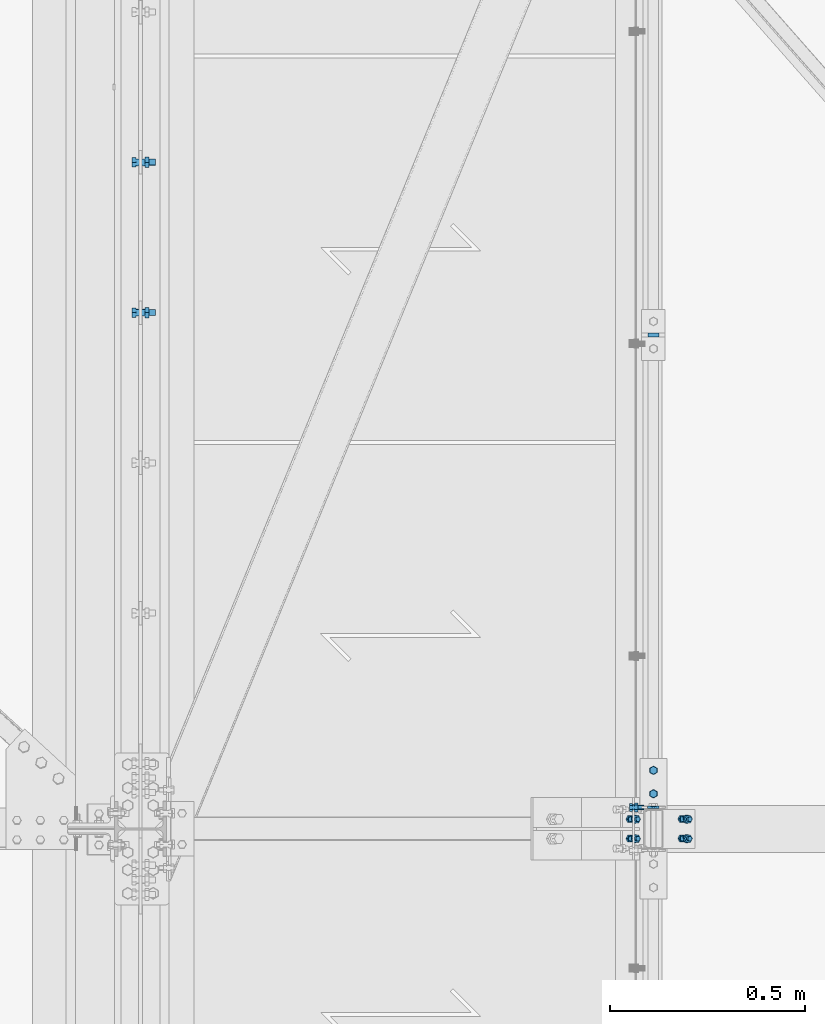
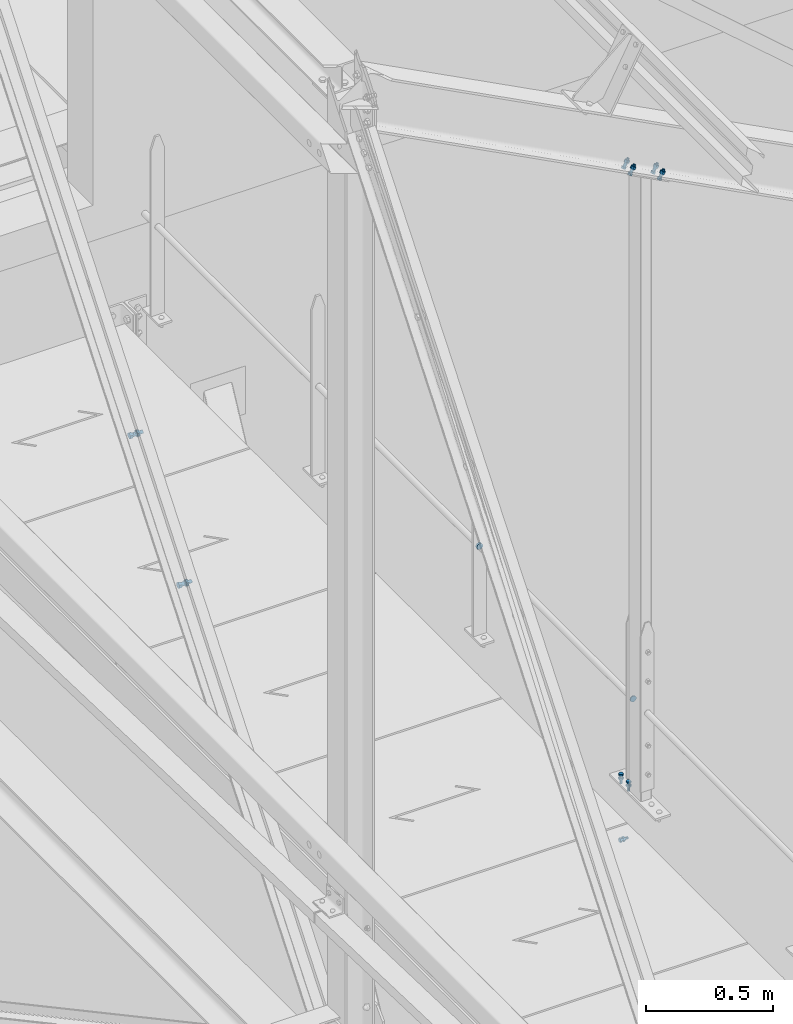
# One storey, part 253 of 362: 8 mechanical fasteners.
"""IFC2X3 building model written with IfcOpenShell, lengths in millimetres."""

from ifc_helpers import new_model, si_unit, frame, origin_with_axes, origin_2d_with_axis, place, context, subcontext, project, spatial, polyline, circle, outline, extrude, source, transform, mapped, material, type_object, element, save


model = new_model("IFC2X3")

# Units and contexts
model_context = context("Model", 3, precision=1e-05, world=origin_with_axes())
body_context = subcontext(model_context, "Body", "Model", "MODEL_VIEW")
ifc_project = project(units=[si_unit("LENGTHUNIT", "METRE", prefix="MILLI"), si_unit("AREAUNIT", "SQUARE_METRE"), si_unit("VOLUMEUNIT", "CUBIC_METRE"), si_unit("MASSUNIT", "GRAM", prefix="KILO"), si_unit("TIMEUNIT", "SECOND"), si_unit("PLANEANGLEUNIT", "RADIAN"), si_unit("SOLIDANGLEUNIT", "STERADIAN"), si_unit("THERMODYNAMICTEMPERATUREUNIT", "DEGREE_CELSIUS"), si_unit("LUMINOUSINTENSITYUNIT", "LUMEN")], contexts=[model_context])

# Site, building, storey
site_placement = place(None, origin_with_axes())
site = spatial("IfcSite", under=ifc_project, at=site_placement, Name="Undefined", CompositionType="ELEMENT")
building_placement = place(site_placement, origin_with_axes())
building = spatial("IfcBuilding", under=site, at=building_placement, Name="Undefined", CompositionType="ELEMENT")
storey_placement = place(building_placement, origin_with_axes())
storey = spatial("IfcBuildingStorey", under=building, at=storey_placement, Name="Undefined", CompositionType="ELEMENT", Elevation=0.0)

# Mechanical fasteners
ifc_material_1 = material(Name="8.8-SB-ZINGUE")
mechanical_fastener_type = type_object("IfcMechanicalFastenerType", Name="Bolt assembly")
shared_shape_1 = source(origin_with_axes(), body_context, "Body", "SweptSolid", [
    extrude(circle(Radius=9.0, at=origin_2d_with_axis()), frame((0.0, -10.9000000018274, 0.0), z_axis=(0.0, 1.0, 0.0), x_axis=(1.0, 0.0, 0.0)), (0.0, 0.0, 1.0), 6.0),
    extrude(circle(Radius=9.0, at=origin_2d_with_axis()), frame((0.0, 4.9000000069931, 0.0), z_axis=(0.0, 1.0, 0.0), x_axis=(1.0, 0.0, 0.0)), (0.0, 0.0, 1.0), 6.1),
    extrude(circle(Radius=9.0, at=origin_2d_with_axis()), frame((0.0, -3.99999923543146, 0.0), z_axis=(0.0, 1.0, 0.0), x_axis=(1.0, 0.0, 0.0)), (0.0, 0.0, 1.0), 8.0),
    extrude(outline(polyline([(13.85640646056, 0.0), (6.92820323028, 12.0000000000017), (-6.92820323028, 12.0000000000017), (-13.85640646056, 0.0), (-6.92820323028, -12.0000000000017), (6.92820323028, -12.0000000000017), (13.85640646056, 0.0)])), frame((0.0, -21.5600000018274, 0.0), z_axis=(0.0, 1.0, 0.0), x_axis=(1.0, 0.0, 0.0)), (0.0, 0.0, 1.0), 10.56),
    extrude(circle(Radius=8.0, at=origin_2d_with_axis()), frame((0.0, -11.0000000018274, 0.0), z_axis=(0.0, 1.0, 0.0), x_axis=(1.0, 0.0, 0.0)), (0.0, 0.0, 1.0), 50.0),
    extrude(outline(polyline([(15.3344231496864, 0.0), (7.6672115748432, 13.2800000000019), (-7.6672115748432, 13.2800000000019), (-15.3344231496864, 0.0), (-7.6672115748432, -13.2800000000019), (7.6672115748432, -13.2800000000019), (15.3344231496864, 0.0)])), frame((0.0, 11.0000000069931, 0.0), z_axis=(0.0, 1.0, 0.0), x_axis=(1.0, 0.0, 0.0)), (0.0, 0.0, 1.0), 10.56),
])
for number, where, z_axis, x_axis, name in (
    (1, (12680.0, 12722.6230450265, 8916.1569760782), (0.0, 1.0, 0.0), (0.0, 0.0, 1.0), "Bolt assembly"),
    (2, (12680.0, 13107.5410154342, 9401.05232502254), (0.0, 1.0, 0.0), (0.0, 0.0, 1.0), "Bolt assembly"),
):
    element("IfcMechanicalFastener", number, at=place(storey_placement, frame(where, z_axis=z_axis, x_axis=x_axis)), inside=storey, type_object=mechanical_fastener_type, material=ifc_material_1, Name=name, NominalDiameter=16.0, NominalLength=50.0, context=body_context, shape_type="MappedRepresentation", body=[
        mapped(shared_shape_1, transform((0.0, 0.0, 0.0))),
    ])
shared_shape_2 = source(origin_with_axes(), body_context, "Body", "SweptSolid", [
    extrude(circle(Radius=7.0, at=origin_2d_with_axis()), frame((0.0, -10.0000010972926, 0.0), z_axis=(0.0, 1.0, 0.0), x_axis=(1.0, 0.0, 0.0)), (0.0, 0.0, 1.0), 10.1),
    extrude(outline(polyline([(10.39230484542, 0.0), (5.19615242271, 9.00000000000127), (-5.19615242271, 9.00000000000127), (-10.39230484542, 0.0), (-5.19615242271, -9.00000000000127), (5.19615242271, -9.00000000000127), (10.39230484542, 0.0)])), frame((0.0, -17.92, 0.0), z_axis=(0.0, 1.0, 0.0), x_axis=(1.0, 0.0, 0.0)), (0.0, 0.0, 1.0), 7.92),
    extrude(circle(Radius=6.0, at=origin_2d_with_axis()), frame((0.0, -10.0000010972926, 0.0), z_axis=(0.0, 1.0, 0.0), x_axis=(1.0, 0.0, 0.0)), (0.0, 0.0, 1.0), 40.0),
    extrude(outline(polyline([(11.5008173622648, 0.0), (5.7504086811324, 9.96000000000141), (-5.7504086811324, 9.96000000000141), (-11.5008173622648, 0.0), (-5.7504086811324, -9.96000000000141), (5.7504086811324, -9.96000000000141), (11.5008173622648, 0.0)])), frame((0.0, 0.0, 0.0), z_axis=(0.0, 1.0, 0.0), x_axis=(1.0, 0.0, 0.0)), (0.0, 0.0, 1.0), 7.92),
])
mechanical_fastener_1_placement = place(storey_placement, frame((13993.9998855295, 11550.0001062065, 8239.99999240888), z_axis=(1.0, 0.0, 0.0), x_axis=(0.0, -1.0, 0.0)))
element("IfcMechanicalFastener", 3, at=mechanical_fastener_1_placement, inside=storey, type_object=mechanical_fastener_type, material=ifc_material_1, Name="Bolt assembly", NominalDiameter=12.0, NominalLength=40.0, context=body_context, shape_type="MappedRepresentation", body=[
    mapped(shared_shape_2, transform((0.0, 0.0, 0.0))),
    mapped(shared_shape_2, transform((60.0, 0.0, 0.0))),
])
ifc_material_2 = material(Name="6.8")
shared_shape_3 = source(origin_with_axes(), body_context, "Body", "SweptSolid", [
    extrude(circle(Radius=14.0, at=origin_2d_with_axis()), frame((0.0, -5.00000000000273, 0.0), z_axis=(0.0, 1.0, 0.0), x_axis=(1.0, 0.0, 0.0)), (0.0, 0.0, 1.0), 10.1),
])
mechanical_fastener_2_placement = place(storey_placement, frame((13993.999891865, 12665.0034477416, 8673.7999984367), z_axis=(0.0, 0.0, 1.0), x_axis=(-1.0, 0.0, 0.0)))
element("IfcMechanicalFastener", 4, at=mechanical_fastener_2_placement, inside=storey, type_object=mechanical_fastener_type, material=ifc_material_2, Name="Bolt assembly", NominalDiameter=27.0, NominalLength=10.0, context=body_context, shape_type="MappedRepresentation", body=[
    mapped(shared_shape_3, transform((0.0, 0.0, 0.0))),
])
shared_shape_4 = source(origin_with_axes(), body_context, "Body", "SweptSolid", [
    extrude(circle(Radius=14.0, at=origin_2d_with_axis()), frame((0.0, -2.5, 0.0), z_axis=(0.0, 1.0, 0.0), x_axis=(1.0, 0.0, 0.0)), (0.0, 0.0, 1.0), 5.1),
])
mechanical_fastener_3_placement = place(storey_placement, frame((13993.9998910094, 11455.0000094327, 8673.79999929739), z_axis=(0.0, 0.0, 1.0), x_axis=(-1.0, 0.0, 0.0)))
element("IfcMechanicalFastener", 5, at=mechanical_fastener_3_placement, inside=storey, type_object=mechanical_fastener_type, material=ifc_material_2, Name="Bolt assembly", NominalDiameter=27.0, NominalLength=10.0, context=body_context, shape_type="MappedRepresentation", body=[
    mapped(shared_shape_4, transform((0.0, 0.0, 0.0))),
])
shared_shape_5 = source(origin_with_axes(), body_context, "Body", "SweptSolid", [
    extrude(circle(Radius=7.0, at=origin_2d_with_axis()), frame((0.0, -0.100011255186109, 0.0), z_axis=(0.0, 1.0, 0.0), x_axis=(1.0, 0.0, 0.0)), (0.0, 0.0, 1.0), 9.9),
    extrude(circle(Radius=7.0, at=origin_2d_with_axis()), frame((0.0, -9.9, 0.0), z_axis=(0.0, 1.0, 0.0), x_axis=(1.0, 0.0, 0.0)), (0.0, 0.0, 1.0), 10.0),
    extrude(outline(polyline([(10.39230484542, 0.0), (5.19615242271, 9.00000000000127), (-5.19615242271, 9.00000000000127), (-10.39230484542, 0.0), (-5.19615242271, -9.00000000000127), (5.19615242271, -9.00000000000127), (10.39230484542, 0.0)])), frame((0.0, -17.92, 0.0), z_axis=(0.0, 1.0, 0.0), x_axis=(1.0, 0.0, 0.0)), (0.0, 0.0, 1.0), 7.92),
    extrude(circle(Radius=6.0, at=origin_2d_with_axis()), frame((0.0, -10.0000010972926, 0.0), z_axis=(0.0, 1.0, 0.0), x_axis=(1.0, 0.0, 0.0)), (0.0, 0.0, 1.0), 40.0),
    extrude(circle(Radius=10.8, at=origin_2d_with_axis()), frame((0.0, 9.80000019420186, 0.0), z_axis=(0.0, 1.0, 0.0), x_axis=(1.0, 0.0, 0.0)), (0.0, 0.0, 1.0), 3.96),
    extrude(outline(polyline([(11.5008173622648, 0.0), (5.7504086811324, 9.96000000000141), (-5.7504086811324, 9.96000000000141), (-11.5008173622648, 0.0), (-5.7504086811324, -9.96000000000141), (5.7504086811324, -9.96000000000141), (11.5008173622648, 0.0)])), frame((0.0, 13.7600001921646, 0.0), z_axis=(0.0, 1.0, 0.0), x_axis=(1.0, 0.0, 0.0)), (0.0, 0.0, 1.0), 7.92),
])
for number, where, z_axis, x_axis, name in (
    (6, (14073.7472683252, 11400.0000000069, 11206.6642092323), (0.0, 1.0, 0.0), (-0.886082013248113, 9.38091927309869e-07, 0.463528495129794), "Bolt assembly"),
    (7, (13940.8349636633, 11400.0000000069, 11276.1934783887), (0.0, -1.0, 0.0), (0.886081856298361, 3.500000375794e-08, -0.463528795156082), "Bolt assembly"),
):
    element("IfcMechanicalFastener", number, at=place(storey_placement, frame(where, z_axis=z_axis, x_axis=x_axis)), inside=storey, type_object=mechanical_fastener_type, material=ifc_material_1, Name=name, NominalDiameter=12.0, NominalLength=40.0, context=body_context, shape_type="MappedRepresentation", body=[
        mapped(shared_shape_5, transform((0.0, 0.0, -25.0))),
        mapped(shared_shape_5, transform((0.0, 0.0, 25.0))),
    ])
shared_shape_6 = source(origin_with_axes(), body_context, "Body", "SweptSolid", [
    extrude(circle(Radius=7.0, at=origin_2d_with_axis()), frame((0.0, -6.5, 0.0), z_axis=(0.0, 1.0, 0.0), x_axis=(1.0, 0.0, 0.0)), (0.0, 0.0, 1.0), 6.1),
    extrude(outline(polyline([(10.39230484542, 0.0), (5.19615242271, 9.00000000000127), (-5.19615242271, 9.00000000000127), (-10.39230484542, 0.0), (-5.19615242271, -9.00000000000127), (5.19615242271, -9.00000000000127), (10.39230484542, 0.0)])), frame((0.0, -14.42, 0.0), z_axis=(0.0, 1.0, 0.0), x_axis=(1.0, 0.0, 0.0)), (0.0, 0.0, 1.0), 7.92),
    extrude(circle(Radius=6.0, at=origin_2d_with_axis()), frame((0.0, -6.5, 0.0), z_axis=(0.0, 1.0, 0.0), x_axis=(1.0, 0.0, 0.0)), (0.0, 0.0, 1.0), 30.0),
    extrude(outline(polyline([(11.5008173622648, 0.0), (5.7504086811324, 9.96000000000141), (-5.7504086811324, 9.96000000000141), (-11.5008173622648, 0.0), (-5.7504086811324, -9.96000000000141), (5.7504086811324, -9.96000000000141), (11.5008173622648, 0.0)])), frame((0.0, -0.5, 0.0), z_axis=(0.0, 1.0, 0.0), x_axis=(1.0, 0.0, 0.0)), (0.0, 0.0, 1.0), 7.92),
])
mechanical_fastener_4_placement = place(storey_placement, frame((13946.4998855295, 11454.9999906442, 8015.00000000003), z_axis=(0.0, 0.0, 1.0), x_axis=(0.0, -1.0, 0.0)))
element("IfcMechanicalFastener", 8, at=mechanical_fastener_4_placement, inside=storey, type_object=mechanical_fastener_type, material=ifc_material_1, Name="Bolt assembly", NominalDiameter=12.0, NominalLength=30.0, context=body_context, shape_type="MappedRepresentation", body=[
    mapped(shared_shape_6, transform((0.0, 0.0, 0.0))),
])

save(model, "model.ifc")
